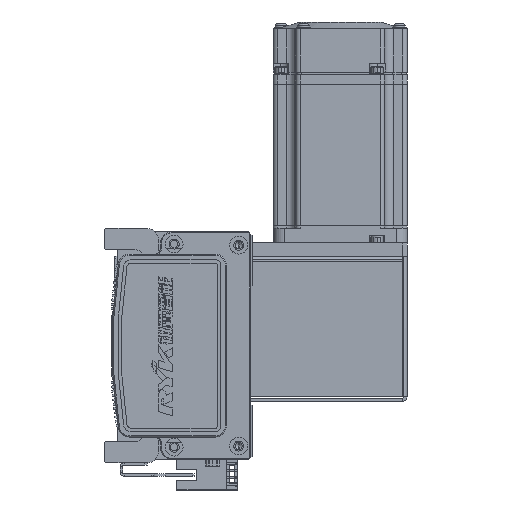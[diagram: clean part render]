
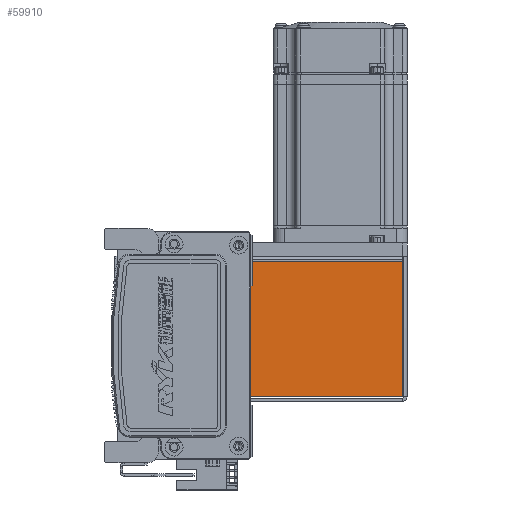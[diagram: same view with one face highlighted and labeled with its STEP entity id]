
A CAD part, left-side view. The second image highlights one B-rep face of the part: STEP entity #59910.
In plain terms, the highlighted planar face has unit normal (-1, 0, 0) as drawn and (0, 0, 1) by its records, which use the part's own axes.
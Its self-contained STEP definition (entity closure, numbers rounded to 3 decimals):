
#3773 = VERTEX_POINT ( 'NONE', #17119 ) ;
#3810 = FACE_OUTER_BOUND ( 'NONE', #40653, .T. ) ;
#11936 = EDGE_CURVE ( 'NONE', #30199, #67525, #62885, .T. ) ;
#15009 = DIRECTION ( 'NONE',  ( 0., 0., -1. ) ) ;
#16621 = CARTESIAN_POINT ( 'NONE',  ( 0., 72.5, 35. ) ) ;
#17119 = CARTESIAN_POINT ( 'NONE',  ( -30.293, 72.5, 35. ) ) ;
#19249 = EDGE_CURVE ( 'NONE', #30199, #50082, #28538, .T. ) ;
#20985 = LINE ( 'NONE', #16621, #57354 ) ;
#24197 = PLANE ( 'NONE',  #43953 ) ;
#25507 = CARTESIAN_POINT ( 'NONE',  ( -30.293, 0., 35. ) ) ;
#28178 = DIRECTION ( 'NONE',  ( -1., 0., 0. ) ) ;
#28538 = LINE ( 'NONE', #53949, #67655 ) ;
#28602 = ORIENTED_EDGE ( 'NONE', *, *, #46342, .T. ) ;
#30189 = ORIENTED_EDGE ( 'NONE', *, *, #38578, .F. ) ;
#30199 = VERTEX_POINT ( 'NONE', #43808 ) ;
#31067 = DIRECTION ( 'NONE',  ( -1., 0., 0. ) ) ;
#36762 = LINE ( 'NONE', #25507, #37637 ) ;
#36766 = DIRECTION ( 'NONE',  ( 0., 1., 0. ) ) ;
#37025 = DIRECTION ( 'NONE',  ( -1., 0., 0. ) ) ;
#37279 = CARTESIAN_POINT ( 'NONE',  ( 30.263, 0.737, 35. ) ) ;
#37637 = VECTOR ( 'NONE', #47103, 1000. ) ;
#38578 = EDGE_CURVE ( 'NONE', #50082, #3773, #36762, .T. ) ;
#40653 = EDGE_LOOP ( 'NONE', ( #72614, #28602, #30189, #55215 ) ) ;
#43808 = CARTESIAN_POINT ( 'NONE',  ( 30.263, 0.737, 35. ) ) ;
#43953 = AXIS2_PLACEMENT_3D ( 'NONE', #59394, #15009, #31067 ) ;
#46342 = EDGE_CURVE ( 'NONE', #67525, #3773, #20985, .T. ) ;
#47103 = DIRECTION ( 'NONE',  ( 0., 1., 0. ) ) ;
#50082 = VERTEX_POINT ( 'NONE', #52439 ) ;
#50673 = CARTESIAN_POINT ( 'NONE',  ( 30.263, 72.5, 35. ) ) ;
#52439 = CARTESIAN_POINT ( 'NONE',  ( -30.293, 0.737, 35. ) ) ;
#53091 = VECTOR ( 'NONE', #36766, 1000. ) ;
#53949 = CARTESIAN_POINT ( 'NONE',  ( -32.5, 0.737, 35. ) ) ;
#55215 = ORIENTED_EDGE ( 'NONE', *, *, #19249, .F. ) ;
#57354 = VECTOR ( 'NONE', #28178, 1000. ) ;
#59394 = CARTESIAN_POINT ( 'NONE',  ( 0., 0., 35. ) ) ;
#59910 = ADVANCED_FACE ( 'NONE', ( #3810 ), #24197, .F. ) ;
#62885 = LINE ( 'NONE', #37279, #53091 ) ;
#67525 = VERTEX_POINT ( 'NONE', #50673 ) ;
#67655 = VECTOR ( 'NONE', #37025, 1000. ) ;
#72614 = ORIENTED_EDGE ( 'NONE', *, *, #11936, .T. ) ;
